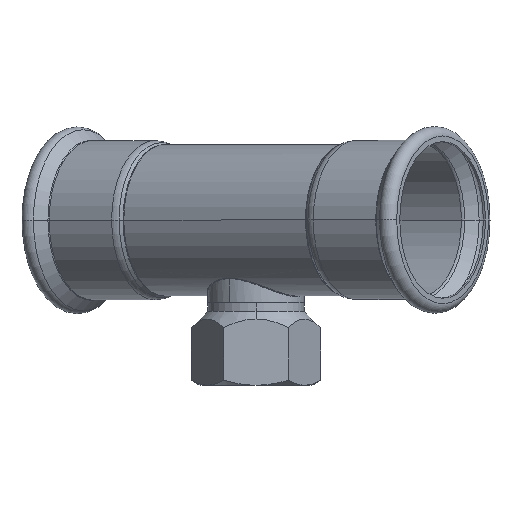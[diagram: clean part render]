
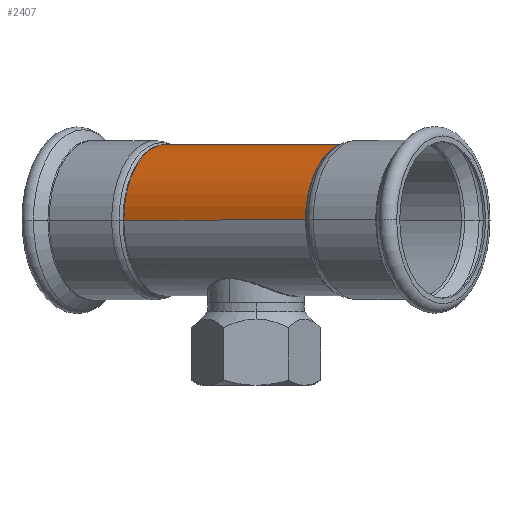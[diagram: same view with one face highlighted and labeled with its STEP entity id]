
A CAD part, top view. The second image highlights one B-rep face of the part: STEP entity #2407.
In plain terms, the highlighted cylindrical face has radius 43.95 mm (diameter 87.9 mm), a partial arc.
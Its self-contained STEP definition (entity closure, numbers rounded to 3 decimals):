
#183 = CARTESIAN_POINT ( 'NONE',  ( -63.056, 0., 0. ) ) ;
#243 = CARTESIAN_POINT ( 'NONE',  ( -63.056, 0., 43.95 ) ) ;
#535 = DIRECTION ( 'NONE',  ( -1., 0., 0. ) ) ;
#649 = DIRECTION ( 'NONE',  ( 0., 0., 1. ) ) ;
#672 = VERTEX_POINT ( 'NONE', #988 ) ;
#820 = DIRECTION ( 'NONE',  ( 0., 0., 1. ) ) ;
#861 = EDGE_CURVE ( 'NONE', #672, #2899, #3353, .T. ) ;
#869 = ORIENTED_EDGE ( 'NONE', *, *, #3958, .F. ) ;
#988 = CARTESIAN_POINT ( 'NONE',  ( 63.056, 0., -43.95 ) ) ;
#1045 = DIRECTION ( 'NONE',  ( -1., 0., 0. ) ) ;
#1259 = EDGE_LOOP ( 'NONE', ( #869, #3060, #4024, #3935 ) ) ;
#1355 = DIRECTION ( 'NONE',  ( -1., 0., 0. ) ) ;
#1406 = EDGE_CURVE ( 'NONE', #2899, #2227, #4001, .T. ) ;
#1749 = VECTOR ( 'NONE', #3508, 1000. ) ;
#1850 = VERTEX_POINT ( 'NONE', #2177 ) ;
#1880 = VECTOR ( 'NONE', #1045, 1000. ) ;
#1885 = CYLINDRICAL_SURFACE ( 'NONE', #3757, 43.95 ) ;
#2033 = CARTESIAN_POINT ( 'NONE',  ( 63.056, 0., 0. ) ) ;
#2041 = EDGE_CURVE ( 'NONE', #1850, #2227, #3146, .T. ) ;
#2126 = AXIS2_PLACEMENT_3D ( 'NONE', #183, #535, #820 ) ;
#2177 = CARTESIAN_POINT ( 'NONE',  ( -63.056, 0., -43.95 ) ) ;
#2227 = VERTEX_POINT ( 'NONE', #243 ) ;
#2319 = AXIS2_PLACEMENT_3D ( 'NONE', #2033, #1355, #4477 ) ;
#2400 = CARTESIAN_POINT ( 'NONE',  ( 27.146, 0., 43.95 ) ) ;
#2407 = ADVANCED_FACE ( 'NONE', ( #2823 ), #1885, .T. ) ;
#2450 = CARTESIAN_POINT ( 'NONE',  ( 27.146, 0., 0. ) ) ;
#2823 = FACE_OUTER_BOUND ( 'NONE', #1259, .T. ) ;
#2899 = VERTEX_POINT ( 'NONE', #3652 ) ;
#3060 = ORIENTED_EDGE ( 'NONE', *, *, #861, .T. ) ;
#3146 = CIRCLE ( 'NONE', #2126, 43.95 ) ;
#3353 = CIRCLE ( 'NONE', #2319, 43.95 ) ;
#3508 = DIRECTION ( 'NONE',  ( -1., 0., 0. ) ) ;
#3540 = CARTESIAN_POINT ( 'NONE',  ( 27.146, 0., -43.95 ) ) ;
#3652 = CARTESIAN_POINT ( 'NONE',  ( 63.056, 0., 43.95 ) ) ;
#3757 = AXIS2_PLACEMENT_3D ( 'NONE', #2450, #3774, #649 ) ;
#3774 = DIRECTION ( 'NONE',  ( -1., 0., 0. ) ) ;
#3935 = ORIENTED_EDGE ( 'NONE', *, *, #2041, .F. ) ;
#3958 = EDGE_CURVE ( 'NONE', #672, #1850, #4344, .T. ) ;
#4001 = LINE ( 'NONE', #2400, #1880 ) ;
#4024 = ORIENTED_EDGE ( 'NONE', *, *, #1406, .T. ) ;
#4344 = LINE ( 'NONE', #3540, #1749 ) ;
#4477 = DIRECTION ( 'NONE',  ( 0., 0., 1. ) ) ;
